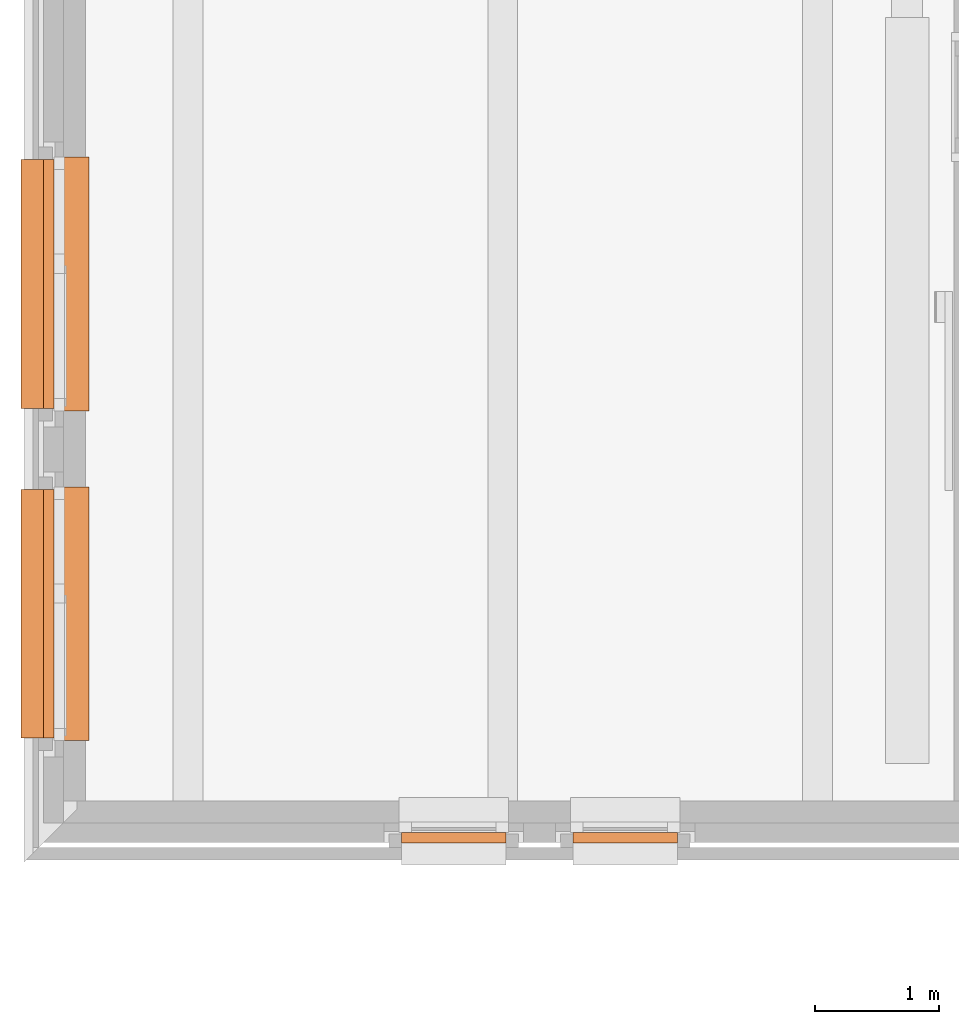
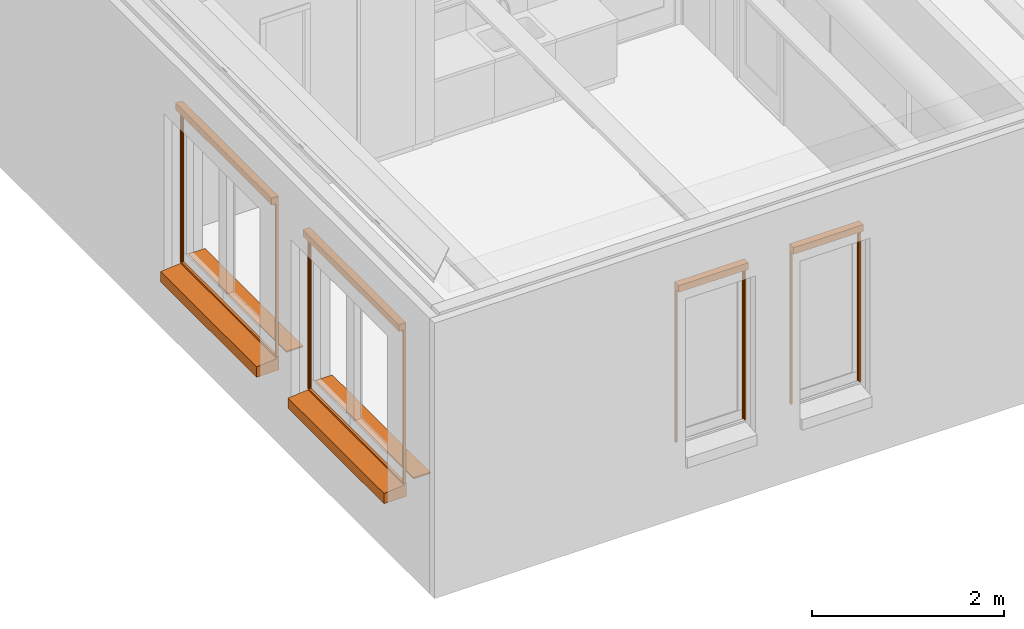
# One storey, part 108 of 128: 8 proxies.
"""IFC2X3 building model written with IfcOpenShell, lengths in millimetres."""

from ifc_helpers import new_model, entity, si_unit, converted_unit, derived_unit, direction, frame, frame_2d, origin, origin_2d_with_axis, place, context, subcontext, project, spatial, polyline, circle_curve, parameter, trimmed, segment, composite_curve, rectangle, outline, extrude, source, transform, mapped, material, material_list, type_object, type_shapes, element, save


model = new_model("IFC2X3")

# Units and contexts
model_context = context("Model", 3, precision=0.01, world=origin(), true_north=direction((6.123031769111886e-17, 1.0)))
body_context = subcontext(model_context, "Body", "Model", "MODEL_VIEW")
ifc_project = project(units=[si_unit("LENGTHUNIT", "METRE", prefix="MILLI"), si_unit("AREAUNIT", "SQUARE_METRE"), si_unit("VOLUMEUNIT", "CUBIC_METRE"), converted_unit("PLANEANGLEUNIT", "DEGREE", entity("IfcRatioMeasure", 0.017453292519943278), si_unit("PLANEANGLEUNIT", "RADIAN"), dimensions=[0, 0, 0, 0, 0, 0, 0]), si_unit("MASSUNIT", "GRAM", prefix="KILO"), derived_unit("MASSDENSITYUNIT", [(si_unit("MASSUNIT", "GRAM", prefix="KILO"), 1), (si_unit("LENGTHUNIT", "METRE"), -3)]), derived_unit("IONCONCENTRATIONUNIT", [(si_unit("MASSUNIT", "GRAM", prefix="KILO"), 1), (si_unit("LENGTHUNIT", "METRE"), -3)]), derived_unit("MOMENTOFINERTIAUNIT", [(si_unit("LENGTHUNIT", "METRE"), 4)]), si_unit("TIMEUNIT", "SECOND"), si_unit("FREQUENCYUNIT", "HERTZ"), si_unit("THERMODYNAMICTEMPERATUREUNIT", "DEGREE_CELSIUS"), derived_unit("THERMALTRANSMITTANCEUNIT", [(si_unit("MASSUNIT", "GRAM", prefix="KILO"), 1), (si_unit("THERMODYNAMICTEMPERATUREUNIT", "KELVIN"), -1), (si_unit("TIMEUNIT", "SECOND"), -3)]), derived_unit("THERMALCONDUCTANCEUNIT", [(si_unit("MASSUNIT", "GRAM", prefix="KILO"), 1), (si_unit("THERMODYNAMICTEMPERATUREUNIT", "KELVIN"), -1), (si_unit("TIMEUNIT", "SECOND"), -3), (si_unit("LENGTHUNIT", "METRE"), 1)]), derived_unit("VOLUMETRICFLOWRATEUNIT", [(si_unit("LENGTHUNIT", "METRE"), 3), (si_unit("TIMEUNIT", "SECOND"), -1)]), derived_unit("MASSFLOWRATEUNIT", [(si_unit("MASSUNIT", "GRAM", prefix="KILO"), 1), (si_unit("TIMEUNIT", "SECOND"), -1)]), derived_unit("ROTATIONALFREQUENCYUNIT", [(si_unit("TIMEUNIT", "SECOND"), -1)]), si_unit("ELECTRICCURRENTUNIT", "AMPERE"), si_unit("ELECTRICVOLTAGEUNIT", "VOLT"), si_unit("POWERUNIT", "WATT"), si_unit("FORCEUNIT", "NEWTON", prefix="KILO"), si_unit("ILLUMINANCEUNIT", "LUX"), si_unit("LUMINOUSFLUXUNIT", "LUMEN"), si_unit("LUMINOUSINTENSITYUNIT", "CANDELA"), derived_unit("USERDEFINED", [(si_unit("MASSUNIT", "GRAM", prefix="KILO"), -1), (si_unit("LENGTHUNIT", "METRE"), -2), (si_unit("TIMEUNIT", "SECOND"), 3), (si_unit("LUMINOUSFLUXUNIT", "LUMEN"), 1)]), derived_unit("USERDEFINED", [(si_unit("MASSUNIT", "GRAM", prefix="KILO"), 1), (si_unit("TIMEUNIT", "SECOND"), -3), (si_unit("LENGTHUNIT", "METRE"), 3), (si_unit("ELECTRICCURRENTUNIT", "AMPERE"), -2)]), derived_unit("SOUNDPOWERUNIT", [(si_unit("MASSUNIT", "GRAM", prefix="KILO"), 1), (si_unit("TIMEUNIT", "SECOND"), -3), (si_unit("LENGTHUNIT", "METRE"), 2)]), derived_unit("SOUNDPRESSUREUNIT", [(si_unit("MASSUNIT", "GRAM", prefix="KILO"), 1), (si_unit("LENGTHUNIT", "METRE"), -1), (si_unit("TIMEUNIT", "SECOND"), -2)]), derived_unit("LINEARVELOCITYUNIT", [(si_unit("LENGTHUNIT", "METRE"), 1), (si_unit("TIMEUNIT", "SECOND"), -1)]), si_unit("PRESSUREUNIT", "PASCAL"), derived_unit("USERDEFINED", [(si_unit("MASSUNIT", "GRAM", prefix="KILO"), 1), (si_unit("LENGTHUNIT", "METRE"), -2), (si_unit("TIMEUNIT", "SECOND"), -2)]), derived_unit("LINEARFORCEUNIT", [(si_unit("MASSUNIT", "GRAM", prefix="KILO"), 1), (si_unit("TIMEUNIT", "SECOND"), -2)]), derived_unit("PLANARFORCEUNIT", [(si_unit("MASSUNIT", "GRAM", prefix="KILO"), 1), (si_unit("LENGTHUNIT", "METRE"), -1), (si_unit("TIMEUNIT", "SECOND"), -2)]), derived_unit("SPECIFICHEATCAPACITYUNIT", [(si_unit("THERMODYNAMICTEMPERATUREUNIT", "KELVIN"), -1), (si_unit("LENGTHUNIT", "METRE"), 2), (si_unit("TIMEUNIT", "SECOND"), -2)]), derived_unit("HEATINGVALUEUNIT", [(si_unit("LENGTHUNIT", "METRE"), 2), (si_unit("TIMEUNIT", "SECOND"), -2)]), derived_unit("VAPORPERMEABILITYUNIT", [(si_unit("LENGTHUNIT", "METRE"), -1), (si_unit("TIMEUNIT", "SECOND"), 1)]), derived_unit("DYNAMICVISCOSITYUNIT", [(si_unit("MASSUNIT", "GRAM", prefix="KILO"), 1), (si_unit("TIMEUNIT", "SECOND"), -1), (si_unit("LENGTHUNIT", "METRE"), -1)]), derived_unit("THERMALEXPANSIONCOEFFICIENTUNIT", [(si_unit("THERMODYNAMICTEMPERATUREUNIT", "KELVIN"), -1)]), derived_unit("MODULUSOFELASTICITYUNIT", [(si_unit("MASSUNIT", "GRAM", prefix="KILO"), 1), (si_unit("LENGTHUNIT", "METRE"), -1), (si_unit("TIMEUNIT", "SECOND"), -2)]), derived_unit("ISOTHERMALMOISTURECAPACITYUNIT", [(si_unit("LENGTHUNIT", "METRE"), 3), (si_unit("MASSUNIT", "GRAM", prefix="KILO"), -1)]), derived_unit("MOISTUREDIFFUSIVITYUNIT", [(si_unit("TIMEUNIT", "SECOND"), -1), (si_unit("LENGTHUNIT", "METRE"), 2)])], contexts=[model_context])

# Site, building, storey
site_placement = place(None, frame((0.0, 300.0, 0.0)))
site = spatial("IfcSite", under=ifc_project, at=site_placement, Name="<Kadastrale nummers>", CompositionType="ELEMENT")
building_placement = place(site_placement, origin())
building = spatial("IfcBuilding", under=site, at=building_placement, CompositionType="ELEMENT")
storey_placement = place(building_placement, frame((0.0, 0.0, 3560.0000331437)))
storey = spatial("IfcBuildingStorey", under=building, at=storey_placement, Name="01 eerste verdieping", CompositionType="ELEMENT", Elevation=3560.0000331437)

# Proxies
ifc_material_1 = material(Name="ISR_Beton_prefab")
building_element_proxy_type_1 = type_object("IfcBuildingElementProxyType", Name="29_DAT_Prefab betonnen waterslag kort:29_DAT_Prefab betonnen waterslag kort", PredefinedType="NOTDEFINED", material=ifc_material_1)
shared_shape_1 = source(origin(), body_context, "Body", "SweptSolid", [
    extrude(outline(composite_curve([segment(polyline([(-137.5, -95.62465990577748), (-107.49999999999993, -95.62465990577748)]), True, "CONTINUOUS"), segment(polyline([(-107.49999999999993, -95.62465990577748), (-107.49999999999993, -73.62465990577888)]), True, "CONTINUOUS"), segment(polyline([(-107.49999999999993, -73.62465990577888), (132.50000000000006, -52.627380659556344)]), True, "CONTINUOUS"), segment(polyline([(132.5, -52.627380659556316), (132.5, 79.37534009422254)]), True, "CONTINUOUS"), segment(polyline([(132.5, 79.37534009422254), (117.49999999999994, 79.37534009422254)]), True, "CONTINUOUS"), segment(trimmed(circle_curve(frame_2d((112.49999999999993, 79.37534009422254), x_axis=(1.0, 0.0)), 5.000000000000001), [parameter(179.99999999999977)], [parameter(359.9999999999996)], True, "PARAMETER"), False, "CONTINUOUS"), segment(polyline([(107.49999999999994, 79.37534009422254), (-137.5, 79.37534009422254)]), True, "CONTINUOUS"), segment(polyline([(-137.5, 79.37534009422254), (-137.5, -95.62465990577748)]), True, "CONTINUOUS")], self_intersect=False)), frame((0.0, 82.50000000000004, -95.62465990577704), z_axis=(1.0, 0.0, 0.0), x_axis=(0.0, -1.0, 0.0)), (0.0, 0.0, 1.0), 2000.0000000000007),
])
type_shapes(building_element_proxy_type_1, [shared_shape_1])
for number, where, z_axis, x_axis, name in (
    (1, (2635.0, 40705.0, 890.0000018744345), (0.0, 0.0, 1.0), (0.0, -1.0, 0.0), "29_DAT_Prefab betonnen waterslag kort:29_DAT_Prefab betonnen waterslag kort"),
    (2, (2635.0, 43355.0, 890.0000018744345), (0.0, 0.0, 1.0), (0.0, -1.0, 0.0), "29_DAT_Prefab betonnen waterslag kort:29_DAT_Prefab betonnen waterslag kort"),
):
    element("IfcBuildingElementProxy", number, at=place(storey_placement, frame(where, z_axis=z_axis, x_axis=x_axis)), inside=storey, type_object=building_element_proxy_type_1, material=ifc_material_1, Name=name, ObjectType="29_DAT_Prefab betonnen waterslag kort:29_DAT_Prefab betonnen waterslag kort", context=body_context, shape_type="MappedRepresentation", body=[
        mapped(shared_shape_1, transform((0.0, 0.0, 0.0), scale=1.0)),
    ])
ifc_material_2 = material(Name="STAAL_RAL 7006")
ifc_material_3 = material(Name="<Unnamed>")
ifc_material_list = material_list([ifc_material_2, ifc_material_3])
building_element_proxy_type_2 = type_object("IfcBuildingElementProxyType", Name="31_DAT_Screen_zonwering_bak85:31_DAT_Screen_zonwering_bak85", PredefinedType="NOTDEFINED", material=ifc_material_list)
shared_shape_2 = source(origin(), body_context, "Body", "SweptSolid", [
    extrude(outline(polyline([(-53.573897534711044, -60.698648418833), (27.826102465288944, -60.698648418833), (27.826102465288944, 17.501351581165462), (24.626102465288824, 17.501351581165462), (24.626102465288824, 22.501351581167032), (1.1216926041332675, 22.501351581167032), (1.1216926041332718, 20.695945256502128), (-53.573897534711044, 20.695945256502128), (-53.573897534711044, -60.698648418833)])), frame((838.0, 29.62610246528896, 2772.501351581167), z_axis=(1.0, 0.0, 0.0), x_axis=(0.0, -1.0, 0.0)), (0.0, 0.0, 1.0), 1.9999999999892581),
    extrude(outline(polyline([(-51.082598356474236, -55.832432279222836), (33.91740164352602, -55.832432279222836), (33.91740164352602, 29.167567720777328), (28.91740164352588, 29.167567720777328), (28.91740164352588, 24.16756772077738), (32.117401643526, 24.16756772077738), (32.117401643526, -54.032432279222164), (-49.28259835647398, -54.032432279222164), (-49.28259835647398, 27.362161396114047), (5.41299178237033, 27.362161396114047), (5.41299178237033, 29.167567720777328), (-51.082598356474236, 29.167567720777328), (-51.082598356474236, -55.832432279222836)])), frame((0.0, 33.91740164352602, 2779.1675677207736), z_axis=(1.0, 0.0, 0.0), x_axis=(0.0, -1.0, 0.0)), (0.0, 0.0, 1.0), 839.9999999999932),
    extrude(outline(polyline([(-53.573897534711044, -60.698648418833), (27.826102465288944, -60.698648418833), (27.826102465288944, 17.501351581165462), (24.626102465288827, 17.501351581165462), (24.626102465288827, 22.501351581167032), (1.1216926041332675, 22.501351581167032), (1.1216926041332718, 20.695945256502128), (-53.573897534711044, 20.695945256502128), (-53.573897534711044, -60.698648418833)])), frame((0.0, 29.62610246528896, 2772.501351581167), z_axis=(1.0, 0.0, 0.0), x_axis=(0.0, -1.0, 0.0)), (0.0, 0.0, 1.0), 1.999999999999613),
    extrude(rectangle(XDim=1.163311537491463, YDim=800.0000000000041, at=frame_2d((2.1094237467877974e-15, 0.0), x_axis=(1.0, 0.0))), frame((420.0, 20.03729323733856, 2750.0), z_axis=(0.0, 0.0, 1.0), x_axis=(0.0, -1.0, 0.0)), (0.0, 0.0, 1.0), 47.3934410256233),
    extrude(outline(composite_curve([segment(trimmed(circle_curve(frame_2d((21.523758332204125, 7.502327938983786), x_axis=(1.0, 0.0)), 1.5000000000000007), [parameter(6.615553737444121e-13)], [parameter(90.00000000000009)], True, "PARAMETER"), True, "CONTINUOUS"), segment(polyline([(21.523758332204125, 9.00232793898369), (-8.97624166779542, 9.00232793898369)]), True, "CONTINUOUS"), segment(trimmed(circle_curve(frame_2d((-8.97624166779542, 6.00232793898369), x_axis=(1.0, 0.0)), 3.0), [parameter(90.00000000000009)], [parameter(172.8445490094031)], True, "PARAMETER"), True, "CONTINUOUS"), segment(polyline([(-11.952877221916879, 6.376013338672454), (-12.470504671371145, 2.2367466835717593)]), True, "CONTINUOUS"), segment(trimmed(circle_curve(frame_2d((-11.733933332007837, 2.1446362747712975), x_axis=(1.0, 0.0)), 0.7423083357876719), [parameter(172.87199730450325)], [parameter(320.7928857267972)], True, "PARAMETER"), True, "CONTINUOUS"), segment(trimmed(circle_curve(frame_2d((-8.97624166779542, 0.002327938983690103), x_axis=(1.0, 0.0)), 2.75), [parameter(218.21030001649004)], [parameter(142.52672013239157)], True, "PARAMETER"), False, "CONTINUOUS"), segment(trimmed(circle_curve(frame_2d((-11.733933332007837, -2.1399803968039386), x_axis=(1.0, 0.0)), 0.7423083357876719), [parameter(36.476465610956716)], [parameter(187.12800269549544)], True, "PARAMETER"), True, "CONTINUOUS"), segment(polyline([(-12.470504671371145, -2.2320908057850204), (-11.95287722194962, -6.3713574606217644)]), True, "CONTINUOUS"), segment(trimmed(circle_curve(frame_2d((-8.97624166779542, -5.9976720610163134), x_axis=(1.0, 0.0)), 3.0), [parameter(187.15545099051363)], [parameter(269.9999999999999)], True, "PARAMETER"), True, "CONTINUOUS"), segment(polyline([(-8.97624166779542, -8.997672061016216), (21.523758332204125, -8.997672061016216)]), True, "CONTINUOUS"), segment(trimmed(circle_curve(frame_2d((21.523758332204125, -7.497672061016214), x_axis=(1.0, 0.0)), 1.4999999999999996), [parameter(269.9999999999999)], [parameter(7.124442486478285e-13)], True, "PARAMETER"), True, "CONTINUOUS"), segment(polyline([(23.02375833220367, -7.4976720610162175), (23.02375833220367, 7.50232793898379)]), True, "CONTINUOUS")], self_intersect=False)), frame((20.0, 19.99767206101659, 2790.417199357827), z_axis=(1.0, 0.0, 0.0), x_axis=(0.0, 0.0, -1.0)), (0.0, 0.0, 1.0), 800.0000000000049),
    extrude(outline(polyline([(-16.231574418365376, -14.638298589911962), (13.768425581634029, -14.638298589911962), (13.768425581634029, 15.36170141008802), (-6.2315744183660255, 15.36170141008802), (-6.2315744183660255, 10.361701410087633), (-4.769580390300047, 10.361701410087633), (-4.769580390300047, 13.866111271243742), (12.23272922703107, 13.866111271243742), (12.23272922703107, -4.579546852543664), (-4.769580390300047, -4.579546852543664), (-4.769580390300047, -1.1166850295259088), (-6.231574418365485, -1.1166850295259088), (-6.231574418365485, -6.116685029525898), (12.232729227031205, -6.116685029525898), (12.232729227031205, -13.138298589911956), (-16.231574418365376, -13.138298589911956), (-16.231574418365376, -14.638298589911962)])), frame((826.2315744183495, 14.638298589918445, 810.0)), (0.0, 0.0, 1.0), 1940.0000000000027),
    extrude(outline(polyline([(-14.638298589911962, -16.231574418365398), (-13.13829858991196, -16.231574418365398), (-13.13829858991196, 12.232729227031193), (-6.116685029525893, 12.232729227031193), (-6.116685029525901, -6.231574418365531), (-1.116685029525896, -6.231574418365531), (-1.116685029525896, -4.769580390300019), (-4.579546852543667, -4.769580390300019), (-4.579546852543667, 12.2327292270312), (13.866111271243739, 12.2327292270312), (13.866111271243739, -4.769580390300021), (10.361701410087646, -4.769580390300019), (10.361701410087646, -6.231574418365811), (15.361701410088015, -6.231574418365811), (15.361701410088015, 13.76842558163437), (-14.638298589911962, 13.76842558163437), (-14.638298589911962, -16.231574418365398)])), frame((13.768425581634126, 14.638298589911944, 810.0), z_axis=(0.0, 0.0, 1.0), x_axis=(0.0, 1.0, 0.0)), (0.0, 0.0, 1.0), 1940.0000000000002),
])
type_shapes(building_element_proxy_type_2, [shared_shape_2])
for number, where, z_axis, x_axis, name in (
    (3, (7860.0, 37949.0, 90.00000187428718), (0.0, 0.0, 1.0), (-1.0, 0.0, 0.0), "31_DAT_Screen_zonwering_bak85:31_DAT_Screen_zonwering_bak85"),
    (4, (6480.0, 37949.0, 90.00000187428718), (0.0, 0.0, 1.0), (-1.0, 0.0, 0.0), "31_DAT_Screen_zonwering_bak85:31_DAT_Screen_zonwering_bak85"),
):
    element("IfcBuildingElementProxy", number, at=place(storey_placement, frame(where, z_axis=z_axis, x_axis=x_axis)), inside=storey, type_object=building_element_proxy_type_2, material=ifc_material_list, Name=name, ObjectType="31_DAT_Screen_zonwering_bak85:31_DAT_Screen_zonwering_bak85", context=body_context, shape_type="MappedRepresentation", body=[
        mapped(shared_shape_2, transform((0.0, 0.0, 0.0), scale=1.0)),
    ])
building_element_proxy_type_3 = type_object("IfcBuildingElementProxyType", Name="31_DAT_Screen_zonwering_bak85:31_DAT_Screen_zonwering_bak85", PredefinedType="NOTDEFINED", material=ifc_material_list)
shared_shape_3 = source(origin(), body_context, "Body", "SweptSolid", [
    extrude(outline(polyline([(-60.69864841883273, -53.573897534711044), (20.695945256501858, -53.573897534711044), (20.695945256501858, 1.1216926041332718), (22.501351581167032, 1.1216926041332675), (22.501351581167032, 24.626102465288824), (17.501351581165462, 24.626102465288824), (17.501351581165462, 27.826102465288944), (-60.69864841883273, 27.826102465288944), (-60.69864841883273, -53.573897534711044)])), frame((1998.0, -29.62610246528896, 2422.501351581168), z_axis=(1.0, 0.0, 0.0), x_axis=(0.0, 0.0, -1.0)), (0.0, 0.0, 1.0), 1.9999999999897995),
    extrude(outline(polyline([(-55.83243227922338, -51.08259835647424), (29.167567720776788, -51.08259835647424), (29.167567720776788, 5.412991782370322), (27.362161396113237, 5.412991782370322), (27.362161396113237, -49.28259835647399), (-54.032432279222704, -49.28259835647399), (-54.032432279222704, 32.117401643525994), (24.16756772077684, 32.117401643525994), (24.16756772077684, 28.91740164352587), (29.167567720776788, 28.91740164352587), (29.167567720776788, 33.917401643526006), (-55.83243227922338, 33.917401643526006), (-55.83243227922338, -51.08259835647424)])), frame((0.0, -33.917401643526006, 2429.1675677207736), z_axis=(1.0, 0.0, 0.0), x_axis=(0.0, 0.0, -1.0)), (0.0, 0.0, 1.0), 1999.999999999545),
    extrude(outline(polyline([(-60.69864841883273, -53.573897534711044), (20.695945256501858, -53.573897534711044), (20.695945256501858, 1.1216926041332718), (22.501351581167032, 1.1216926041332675), (22.501351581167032, 24.626102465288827), (17.501351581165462, 24.626102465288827), (17.501351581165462, 27.826102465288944), (-60.69864841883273, 27.826102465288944), (-60.69864841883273, -53.573897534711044)])), frame((0.0, -29.62610246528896, 2422.501351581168), z_axis=(1.0, 0.0, 0.0), x_axis=(0.0, 0.0, -1.0)), (0.0, 0.0, 1.0), 1.999999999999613),
    extrude(rectangle(XDim=1959.9999999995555, YDim=1.163311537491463, at=frame_2d((0.0, -2.1094237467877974e-15), x_axis=(1.0, 0.0))), frame((1000.0, -20.037293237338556, 2382.3606486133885)), (0.0, 0.0, 1.0), 17.639351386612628),
    extrude(outline(composite_curve([segment(polyline([(-7.5023279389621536, -23.023758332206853), (7.4976720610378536, -23.023758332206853)]), True, "CONTINUOUS"), segment(trimmed(circle_curve(frame_2d((7.49767206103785, -21.523758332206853), x_axis=(0.0, -1.0)), 1.4999999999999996), [parameter(359.99999999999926)], [parameter(90.00000000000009)], True, "PARAMETER"), True, "CONTINUOUS"), segment(polyline([(8.997672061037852, -21.523758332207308), (8.997672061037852, 8.976241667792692)]), True, "CONTINUOUS"), segment(trimmed(circle_curve(frame_2d((5.9976720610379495, 8.976241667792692), x_axis=(0.0, -1.0)), 3.0), [parameter(90.00000000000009)], [parameter(172.84454900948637)], True, "PARAMETER"), True, "CONTINUOUS"), segment(polyline([(6.3713574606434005, 11.952877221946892), (2.2320908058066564, 12.470504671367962)]), True, "CONTINUOUS"), segment(trimmed(circle_curve(frame_2d((2.1399803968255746, 11.733933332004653), x_axis=(0.0, -1.0)), 0.7423083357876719), [parameter(172.87199730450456)], [parameter(323.5235343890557)], True, "PARAMETER"), True, "CONTINUOUS"), segment(trimmed(circle_curve(frame_2d((-0.002327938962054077, 8.976241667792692), x_axis=(0.0, -1.0)), 2.75), [parameter(217.47327986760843)], [parameter(141.78969998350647)], True, "PARAMETER"), False, "CONTINUOUS"), segment(trimmed(circle_curve(frame_2d((-2.1446362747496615, 11.733933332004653), x_axis=(0.0, -1.0)), 0.7423083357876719), [parameter(39.207114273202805)], [parameter(187.12800269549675)], True, "PARAMETER"), True, "CONTINUOUS"), segment(polyline([(-2.2367466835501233, 12.470504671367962), (-6.376013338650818, 11.952877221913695)]), True, "CONTINUOUS"), segment(trimmed(circle_curve(frame_2d((-6.002327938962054, 8.976241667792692), x_axis=(0.0, -1.0)), 3.0), [parameter(187.1554509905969)], [parameter(269.9999999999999)], True, "PARAMETER"), True, "CONTINUOUS"), segment(polyline([(-9.002327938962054, 8.976241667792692), (-9.002327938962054, -21.523758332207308)]), True, "CONTINUOUS"), segment(trimmed(circle_curve(frame_2d((-7.50232793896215, -21.523758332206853), x_axis=(0.0, -1.0)), 1.5000000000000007), [parameter(269.9999999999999)], [parameter(359.9999999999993)], True, "PARAMETER"), True, "CONTINUOUS")], self_intersect=False)), frame((20.0, -19.997672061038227, 2375.3844069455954), z_axis=(1.0, 0.0, 0.0), x_axis=(0.0, 1.0, 0.0)), (0.0, 0.0, 1.0), 1959.999999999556),
    extrude(outline(polyline([(-14.638298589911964, -16.231574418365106), (-13.138298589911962, -16.231574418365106), (-13.138298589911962, 12.23272922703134), (-6.116685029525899, 12.23272922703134), (-6.116685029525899, -6.231574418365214), (-1.116685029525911, -6.231574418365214), (-1.116685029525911, -4.769580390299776), (-4.579546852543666, -4.769580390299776), (-4.579546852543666, 12.23272922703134), (13.86611127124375, 12.23272922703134), (13.86611127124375, -4.769580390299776), (10.36170141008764, -4.769580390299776), (10.36170141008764, -6.2315744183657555), (15.36170141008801, -6.2315744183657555), (15.36170141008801, 13.7684255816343), (-14.638298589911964, 13.7684255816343), (-14.638298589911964, -16.231574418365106)])), frame((1986.2315744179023, -14.638298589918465, 450.0), z_axis=(0.0, 0.0, 1.0), x_axis=(0.0, -1.0, 0.0)), (0.0, 0.0, 1.0), 1950.0000000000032),
    extrude(outline(polyline([(-16.231574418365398, -14.638298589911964), (13.768425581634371, -14.638298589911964), (13.76842558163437, 15.361701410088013), (-6.231574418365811, 15.361701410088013), (-6.231574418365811, 10.361701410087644), (-4.769580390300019, 10.361701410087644), (-4.769580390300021, 13.866111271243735), (12.2327292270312, 13.866111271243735), (12.2327292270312, -4.57954685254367), (-4.769580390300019, -4.57954685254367), (-4.769580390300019, -1.1166850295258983), (-6.231574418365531, -1.1166850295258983), (-6.231574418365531, -6.116685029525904), (12.232729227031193, -6.116685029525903), (12.232729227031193, -13.138298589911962), (-16.231574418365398, -13.138298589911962), (-16.231574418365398, -14.638298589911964)])), frame((13.768425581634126, -14.638298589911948, 450.0), z_axis=(0.0, 0.0, 1.0), x_axis=(-1.0, 0.0, 0.0)), (0.0, 0.0, 1.0), 1950.0000000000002),
])
type_shapes(building_element_proxy_type_3, [shared_shape_3])
for number, where, z_axis, x_axis, name in (
    (5, (2848.998623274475, 40705.0, 440.0000018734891), (0.0, 0.0, 1.0), (0.0, -1.0, 0.0), "31_DAT_Screen_zonwering_bak85:31_DAT_Screen_zonwering_bak85"),
    (6, (2848.9986232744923, 43355.0, 440.0000018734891), (0.0, 0.0, 1.0), (0.0, -1.0, 0.0), "31_DAT_Screen_zonwering_bak85:31_DAT_Screen_zonwering_bak85"),
):
    element("IfcBuildingElementProxy", number, at=place(storey_placement, frame(where, z_axis=z_axis, x_axis=x_axis)), inside=storey, type_object=building_element_proxy_type_3, material=ifc_material_list, Name=name, ObjectType="31_DAT_Screen_zonwering_bak85:31_DAT_Screen_zonwering_bak85", context=body_context, shape_type="MappedRepresentation", body=[
        mapped(shared_shape_3, transform((0.0, 0.0, 0.0), scale=1.0)),
    ])
ifc_material_4 = material(Name="e1_natuursteen")
building_element_proxy_type_4 = type_object("IfcBuildingElementProxyType", Name="NLRS_31_GM_WPB_vensterbank natuursteen -SH_gen_ASN:200x18", PredefinedType="USERDEFINED", material=ifc_material_4)
shared_shape_4 = source(origin(), body_context, "Body", "SweptSolid", [
    extrude(rectangle(XDim=200.0, YDim=2040.0000000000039, at=origin_2d_with_axis()), frame((0.0, -100.0, 0.0), z_axis=(0.0, 0.0, 1.0), x_axis=(0.0, -1.0, 0.0)), (0.0, 0.0, 1.0), 17.999999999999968),
])
type_shapes(building_element_proxy_type_4, [shared_shape_4])
for number, where, z_axis, x_axis, name in (
    (7, (2930.0, 39705.0, 920.0000018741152), (0.0, 0.0, 1.0), (0.0, 1.0, 0.0), "NLRS_31_GM_WPB_vensterbank natuursteen -SH_gen_ASN:200x18"),
    (8, (2930.0, 42355.0, 920.0000018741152), (0.0, 0.0, 1.0), (0.0, 1.0, 0.0), "NLRS_31_GM_WPB_vensterbank natuursteen -SH_gen_ASN:200x18"),
):
    element("IfcBuildingElementProxy", number, at=place(storey_placement, frame(where, z_axis=z_axis, x_axis=x_axis)), inside=storey, type_object=building_element_proxy_type_4, material=ifc_material_4, Name=name, ObjectType="NLRS_31_GM_WPB_vensterbank natuursteen -SH_gen_ASN:200x18", context=body_context, shape_type="MappedRepresentation", body=[
        mapped(shared_shape_4, transform((0.0, 0.0, 0.0), scale=1.0)),
    ])

save(model, "model.ifc")
